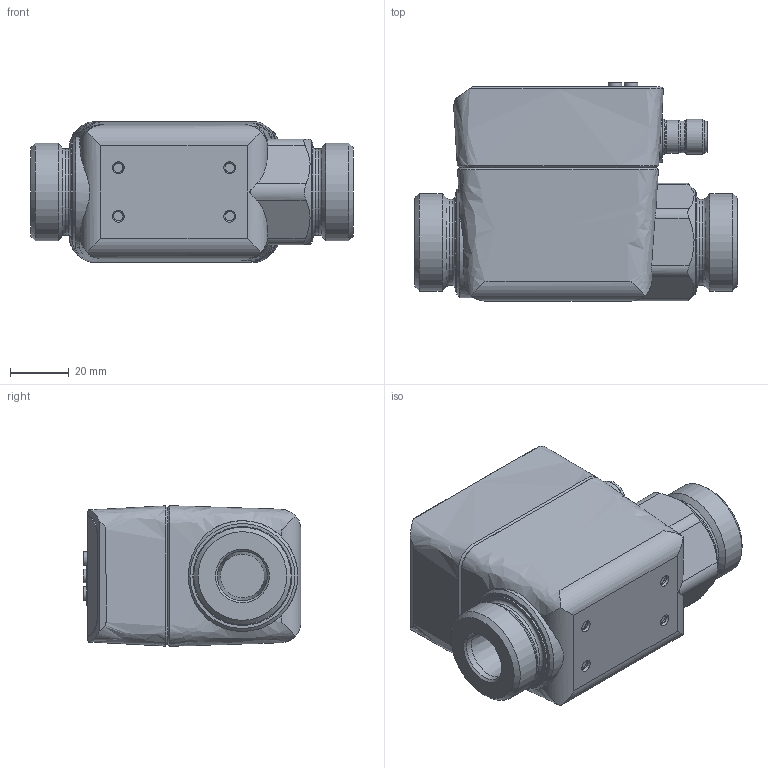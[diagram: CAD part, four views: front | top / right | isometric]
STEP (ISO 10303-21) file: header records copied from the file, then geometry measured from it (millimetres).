
FILE_DESCRIPTION(/* description */ ('STEP AP203'),/* implementation_level */ '2;1');
FILE_NAME(/* name */ 'P_MZ_300_0277',/* time_stamp */ '2023-08-01T11:56:28+02:00',/* author */ ('License CC BY-ND 4.0'),/* organization */ ('CADENAS'),/* preprocessor_version */ 'ST-DEVELOPER v19.3',/* originating_system */ 'PARTsolutions',/* authorisation */ ' ');
FILE_SCHEMA (('CONFIG_CONTROL_DESIGN'));
Length unit declared in the file: millimetre
Products named in the file (1): P_MZ_300_0277
Bounding box: 110 x 74.4 x 48 mm (x, y, z)
Volume: 259338.6 mm3; surface area: 30422.4 mm2
Topology: 1 solids, 1 shells, 141 faces, 337 edges, 219 vertices
Faces by surface type: plane 56, cylinder 52, cone 18, torus 7, bspline 5, sphere 3
Full cylindrical faces by diameter (mm): 3.242 x4, 4.6 x3, 8.45 x1, 10.55 x1, 10.8 x1, 11.3 x1, 12 x2, 17 x2, 17.5 x1, 29.4 x2, 33.249 x2, 33.8 x2
Entity records: 5660 total; most frequent: CARTESIAN_POINT 1668, DIRECTION 621, ORIENTED_EDGE 538, EDGE_CURVE 269, AXIS2_PLACEMENT_3D 262, EDGE_LOOP 216, FACE_BOUND 216, VERTEX_POINT 205
